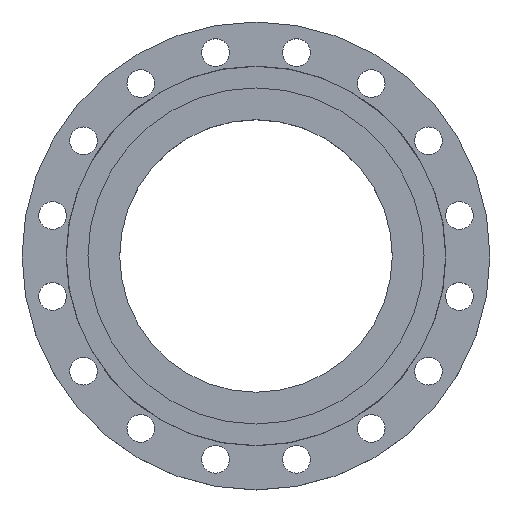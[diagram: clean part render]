
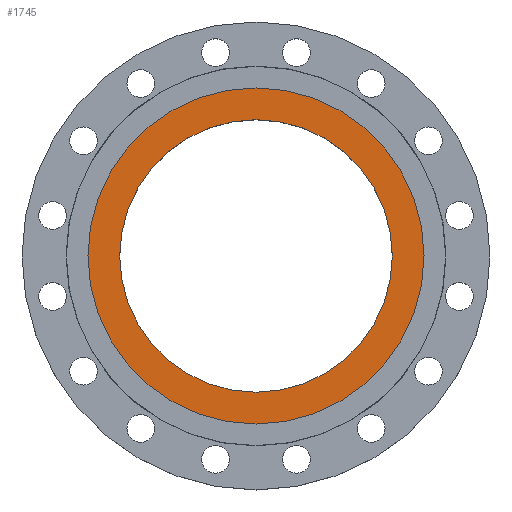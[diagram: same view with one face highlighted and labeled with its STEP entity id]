
A CAD part, top view. The second image highlights one B-rep face of the part: STEP entity #1745.
In plain terms, the highlighted planar face has unit normal (0, 0, 1).
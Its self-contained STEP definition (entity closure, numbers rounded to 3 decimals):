
#19 = PLANE ( 'NONE',  #1011 ) ;
#75 = CARTESIAN_POINT ( 'NONE',  ( 237., 0., -5. ) ) ;
#113 = EDGE_CURVE ( 'NONE', #998, #1296, #344, .T. ) ;
#155 = CARTESIAN_POINT ( 'NONE',  ( 192.2, 0., -5. ) ) ;
#333 = CARTESIAN_POINT ( 'NONE',  ( -237., 0., -5. ) ) ;
#344 = CIRCLE ( 'NONE', #355, 192.2 ) ;
#355 = AXIS2_PLACEMENT_3D ( 'NONE', #859, #858, #857 ) ;
#433 = CARTESIAN_POINT ( 'NONE',  ( -192.2, 0., -5. ) ) ;
#451 = EDGE_CURVE ( 'NONE', #1296, #998, #1087, .T. ) ;
#464 = DIRECTION ( 'NONE',  ( -1., 0., 0. ) ) ;
#660 = DIRECTION ( 'NONE',  ( 0., 0., -1. ) ) ;
#736 = DIRECTION ( 'NONE',  ( 1., 0., 0. ) ) ;
#738 = DIRECTION ( 'NONE',  ( 0., 0., -1. ) ) ;
#739 = CARTESIAN_POINT ( 'NONE',  ( 0., 0., -5. ) ) ;
#750 = CARTESIAN_POINT ( 'NONE',  ( 237., 0., -5. ) ) ;
#857 = DIRECTION ( 'NONE',  ( 1., 0., 0. ) ) ;
#858 = DIRECTION ( 'NONE',  ( 0., 0., -1. ) ) ;
#859 = CARTESIAN_POINT ( 'NONE',  ( 0., 0., -5. ) ) ;
#896 = AXIS2_PLACEMENT_3D ( 'NONE', #739, #738, #736 ) ;
#939 = FACE_BOUND ( 'NONE', #1008, .T. ) ;
#986 = EDGE_LOOP ( 'NONE', ( #1548, #1549 ) ) ;
#998 = VERTEX_POINT ( 'NONE', #433 ) ;
#1008 = EDGE_LOOP ( 'NONE', ( #1545, #1547 ) ) ;
#1011 = AXIS2_PLACEMENT_3D ( 'NONE', #750, #1452, #1777 ) ;
#1078 = VERTEX_POINT ( 'NONE', #333 ) ;
#1087 = CIRCLE ( 'NONE', #896, 192.2 ) ;
#1296 = VERTEX_POINT ( 'NONE', #155 ) ;
#1365 = CARTESIAN_POINT ( 'NONE',  ( 0., 0., -5. ) ) ;
#1377 = DIRECTION ( 'NONE',  ( -1., 0., 0. ) ) ;
#1398 = CIRCLE ( 'NONE', #1427, 237. ) ;
#1427 = AXIS2_PLACEMENT_3D ( 'NONE', #1786, #660, #1377 ) ;
#1452 = DIRECTION ( 'NONE',  ( 0., 0., 1. ) ) ;
#1461 = VERTEX_POINT ( 'NONE', #75 ) ;
#1545 = ORIENTED_EDGE ( 'NONE', *, *, #113, .T. ) ;
#1547 = ORIENTED_EDGE ( 'NONE', *, *, #451, .T. ) ;
#1548 = ORIENTED_EDGE ( 'NONE', *, *, #1648, .F. ) ;
#1549 = ORIENTED_EDGE ( 'NONE', *, *, #1658, .F. ) ;
#1628 = FACE_OUTER_BOUND ( 'NONE', #986, .T. ) ;
#1648 = EDGE_CURVE ( 'NONE', #1078, #1461, #1713, .T. ) ;
#1658 = EDGE_CURVE ( 'NONE', #1461, #1078, #1398, .T. ) ;
#1713 = CIRCLE ( 'NONE', #1735, 237. ) ;
#1735 = AXIS2_PLACEMENT_3D ( 'NONE', #1365, #1759, #464 ) ;
#1745 = ADVANCED_FACE ( 'NONE', ( #939, #1628 ), #19, .T. ) ;
#1759 = DIRECTION ( 'NONE',  ( 0., 0., -1. ) ) ;
#1777 = DIRECTION ( 'NONE',  ( 1., 0., 0. ) ) ;
#1786 = CARTESIAN_POINT ( 'NONE',  ( 0., 0., -5. ) ) ;
